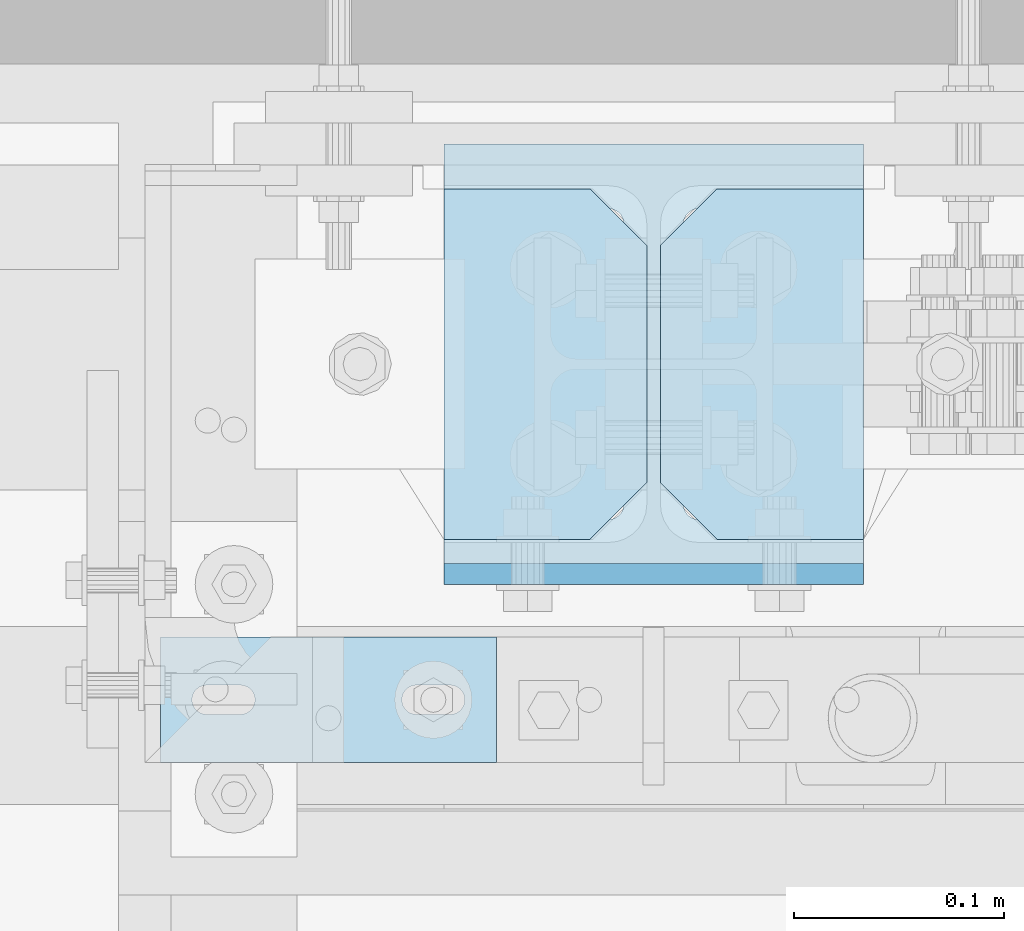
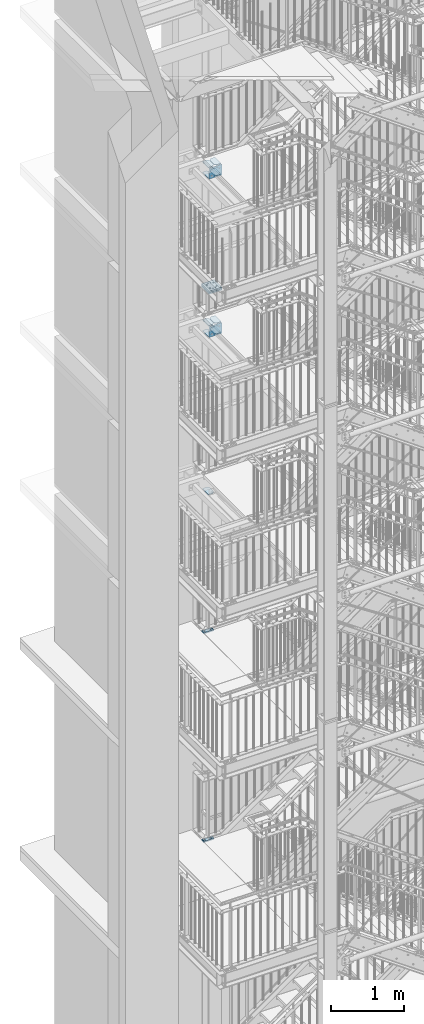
# One storey, part 192 of 831: 15 plates, 54 openings.
"""IFC2X3 building model written with IfcOpenShell, lengths in millimetres."""

from ifc_helpers import new_model, entity, si_unit, converted_unit, point, frame, frame_2d, origin, origin_with_axes, origin_2d_with_axis, place, context, project, spatial, polyline, circle_curve, line_curve, trimmed, segment, composite_curve, circle, outline, extrude, material, layer, layer_set, element, save


model = new_model("IFC2X3")

# Units and contexts
model_context = context("Model", 3, precision=1e-09, world=origin_with_axes())
ifc_project = project(units=[si_unit("LENGTHUNIT", "METRE", prefix="MILLI"), si_unit("AREAUNIT", "SQUARE_METRE"), si_unit("VOLUMEUNIT", "CUBIC_METRE"), converted_unit("PLANEANGLEUNIT", "DEGREE", entity("IfcPlaneAngleMeasure", 0.01745329), si_unit("PLANEANGLEUNIT", "RADIAN"), dimensions=[0, 0, 0, 0, 0, 0, 0])], contexts=[model_context])

# Site, building, storey
site_placement = place(None, origin_with_axes())
site = spatial("IfcSite", under=ifc_project, at=site_placement, Name="Site", CompositionType="ELEMENT")
building_placement = place(site_placement, origin_with_axes())
building = spatial("IfcBuilding", under=site, at=building_placement, Name="Struktur 1", CompositionType="ELEMENT")
storey_placement = place(building_placement, origin_with_axes())
storey = spatial("IfcBuildingStorey", under=building, at=storey_placement, Name="Default Storey", CompositionType="ELEMENT", Elevation=0.0)

# Plate, openings
ifc_material = material(Name="S235JR")
ifc_layer_1 = layer(ifc_material, 10.0)
ifc_layer_set_1 = layer_set([ifc_layer_1], Name="S235JR")
plate_1_placement = place(None, frame((4853.463402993, 7433.236971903, 9532.0), z_axis=(0.0, 0.0, -1.0), x_axis=(-1.0, 0.0, 0.0)))
plate_1 = element("IfcPlate", 1, at=plate_1_placement, inside=storey, material=ifc_layer_set_1, Name="Stiffener#4", ObjectType="Stiffener#4", context=model_context, shape_type="SweptSolid", body=[
    extrude(outline(polyline([(0.0, 0.0), (96.75, 0.0), (96.75, 167.0), (0.0, 167.0), (0.0, 0.0)])), origin_with_axes(), (0.0, 0.0, 1.0), 10.0),
])
opening_1_placement = place(plate_1_placement, frame((0.0, 0.0, -0.01), z_axis=(0.0, 0.0, 1.0), x_axis=(1.0, 0.0, 0.0)))
element("IfcOpeningElement", 2, at=opening_1_placement, cuts=plate_1, ObjectType="Opening", context=model_context, shape_type="SweptSolid", body=[
    extrude(outline(polyline([(0.0, 167.0), (0.0, 140.0), (27.0, 167.0), (0.0, 167.0)])), origin(), (0.0, 0.0, 1.0), 10.02),
])
opening_2_placement = place(plate_1_placement, frame((0.0, 0.0, -0.01), z_axis=(0.0, 0.0, 1.0), x_axis=(1.0, 0.0, 0.0)))
element("IfcOpeningElement", 3, at=opening_2_placement, cuts=plate_1, ObjectType="Opening", context=model_context, shape_type="SweptSolid", body=[
    extrude(outline(polyline([(0.0, 0.0), (27.0, 0.0), (0.0, 27.0), (0.0, 0.0)])), origin(), (0.0, 0.0, 1.0), 10.02),
])

plate_2_placement = place(None, frame((4856.713402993, 7411.736971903, 12244.0), z_axis=(0.0, 1.0, 0.0), x_axis=(0.0, 0.0, -1.0)))
plate_2 = element("IfcPlate", 4, at=plate_2_placement, inside=storey, material=ifc_layer_set_1, Name="Endplate", ObjectType="Endplate", context=model_context, shape_type="SweptSolid", body=[
    extrude(outline(polyline([(-90.0, -100.0), (90.0, -100.0), (90.0, 100.0), (-90.0, 100.0), (-90.0, -100.0)])), origin_with_axes(), (0.0, 0.0, 1.0), 10.0),
])
opening_3_placement = place(plate_2_placement, frame((-67.0, 21.25, 10.5), z_axis=(0.0, 0.0, -1.0), x_axis=(-1.0, 0.0, 0.0)))
element("IfcOpeningElement", 5, at=opening_3_placement, cuts=plate_2, ObjectType="Opening", context=model_context, shape_type="SweptSolid", body=[
    extrude(circle(Radius=6.001, at=origin_2d_with_axis()), origin(), (0.0, 0.0, 1.0), 11.0),
])
opening_4_placement = place(plate_2_placement, frame((67.0, 21.25, 10.5), z_axis=(0.0, 0.0, -1.0), x_axis=(-1.0, 0.0, 0.0)))
element("IfcOpeningElement", 6, at=opening_4_placement, cuts=plate_2, ObjectType="Opening", context=model_context, shape_type="SweptSolid", body=[
    extrude(circle(Radius=6.001, at=origin_2d_with_axis()), origin(), (0.0, 0.0, 1.0), 11.0),
])
opening_5_placement = place(plate_2_placement, frame((67.0, -21.25, 10.5), z_axis=(0.0, 0.0, -1.0), x_axis=(-1.0, 0.0, 0.0)))
element("IfcOpeningElement", 7, at=opening_5_placement, cuts=plate_2, ObjectType="Opening", context=model_context, shape_type="SweptSolid", body=[
    extrude(circle(Radius=6.001, at=origin_2d_with_axis()), origin(), (0.0, 0.0, 1.0), 11.0),
])
opening_6_placement = place(plate_2_placement, frame((-67.0, -21.25, 10.5), z_axis=(0.0, 0.0, -1.0), x_axis=(-1.0, 0.0, 0.0)))
element("IfcOpeningElement", 8, at=opening_6_placement, cuts=plate_2, ObjectType="Opening", context=model_context, shape_type="SweptSolid", body=[
    extrude(circle(Radius=6.001, at=origin_2d_with_axis()), origin(), (0.0, 0.0, 1.0), 11.0),
])
opening_7_placement = place(plate_2_placement, frame((-45.0, -60.0, 10.5), z_axis=(0.0, 0.0, -1.0), x_axis=(0.0, -1.0, 0.0)))
element("IfcOpeningElement", 9, at=opening_7_placement, cuts=plate_2, ObjectType="Opening", context=model_context, shape_type="SweptSolid", body=[
    extrude(circle(Radius=9.001, at=origin_2d_with_axis()), origin(), (0.0, 0.0, 1.0), 11.0),
])
opening_8_placement = place(plate_2_placement, frame((45.0, -60.0, 10.5), z_axis=(0.0, 0.0, -1.0), x_axis=(0.0, -1.0, 0.0)))
element("IfcOpeningElement", 10, at=opening_8_placement, cuts=plate_2, ObjectType="Opening", context=model_context, shape_type="SweptSolid", body=[
    extrude(circle(Radius=9.001, at=origin_2d_with_axis()), origin(), (0.0, 0.0, 1.0), 11.0),
])
opening_9_placement = place(plate_2_placement, frame((45.0, 60.0, 10.5), z_axis=(0.0, 0.0, -1.0), x_axis=(0.0, 1.0, 0.0)))
element("IfcOpeningElement", 11, at=opening_9_placement, cuts=plate_2, ObjectType="Opening", context=model_context, shape_type="SweptSolid", body=[
    extrude(circle(Radius=9.001, at=origin_2d_with_axis()), origin(), (0.0, 0.0, 1.0), 11.0),
])
opening_10_placement = place(plate_2_placement, frame((-45.0, 60.0, 10.5), z_axis=(0.0, 0.0, -1.0), x_axis=(0.0, 1.0, 0.0)))
element("IfcOpeningElement", 12, at=opening_10_placement, cuts=plate_2, ObjectType="Opening", context=model_context, shape_type="SweptSolid", body=[
    extrude(circle(Radius=9.001, at=origin_2d_with_axis()), origin(), (0.0, 0.0, 1.0), 11.0),
])

plate_3_placement = place(None, frame((4859.963402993, 7433.236971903, 12329.0), z_axis=(0.0, 0.0, 1.0), x_axis=(1.0, 0.0, 0.0)))
plate_3 = element("IfcPlate", 13, at=plate_3_placement, inside=storey, material=ifc_layer_set_1, Name="Stiffener#1", ObjectType="Stiffener#1", context=model_context, shape_type="SweptSolid", body=[
    extrude(outline(polyline([(0.0, 0.0), (96.75, 0.0), (96.75, 167.0), (0.0, 167.0), (0.0, 0.0)])), origin_with_axes(), (0.0, 0.0, 1.0), 10.0),
])
opening_11_placement = place(plate_3_placement, frame((0.0, 0.0, -0.01), z_axis=(0.0, 0.0, 1.0), x_axis=(1.0, 0.0, 0.0)))
element("IfcOpeningElement", 14, at=opening_11_placement, cuts=plate_3, ObjectType="Opening", context=model_context, shape_type="SweptSolid", body=[
    extrude(outline(polyline([(0.0, 167.0), (0.0, 140.0), (27.0, 167.0), (0.0, 167.0)])), origin(), (0.0, 0.0, 1.0), 10.02),
])
opening_12_placement = place(plate_3_placement, frame((0.0, 0.0, -0.01), z_axis=(0.0, 0.0, 1.0), x_axis=(1.0, 0.0, 0.0)))
element("IfcOpeningElement", 15, at=opening_12_placement, cuts=plate_3, ObjectType="Opening", context=model_context, shape_type="SweptSolid", body=[
    extrude(outline(polyline([(0.0, 0.0), (27.0, 0.0), (0.0, 27.0), (0.0, 0.0)])), origin(), (0.0, 0.0, 1.0), 10.02),
])

plate_4_placement = place(None, frame((4756.713402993, 7433.236971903, 12329.0), z_axis=(0.0, 0.0, 1.0), x_axis=(1.0, 0.0, 0.0)))
plate_4 = element("IfcPlate", 16, at=plate_4_placement, inside=storey, material=ifc_layer_set_1, Name="Stiffener#2", ObjectType="Stiffener#2", context=model_context, shape_type="SweptSolid", body=[
    extrude(outline(polyline([(0.0, 0.0), (96.75, 0.0), (96.75, 167.0), (0.0, 167.0), (0.0, 0.0)])), origin_with_axes(), (0.0, 0.0, 1.0), 10.0),
])
opening_13_placement = place(plate_4_placement, frame((0.0, 0.0, -0.01), z_axis=(0.0, 0.0, 1.0), x_axis=(1.0, 0.0, 0.0)))
element("IfcOpeningElement", 17, at=opening_13_placement, cuts=plate_4, ObjectType="Opening", context=model_context, shape_type="SweptSolid", body=[
    extrude(outline(polyline([(96.75, 167.0), (69.75, 167.0), (96.75, 140.0), (96.75, 167.0)])), origin(), (0.0, 0.0, 1.0), 10.02),
])
opening_14_placement = place(plate_4_placement, frame((0.0, 0.0, -0.01), z_axis=(0.0, 0.0, 1.0), x_axis=(1.0, 0.0, 0.0)))
element("IfcOpeningElement", 18, at=opening_14_placement, cuts=plate_4, ObjectType="Opening", context=model_context, shape_type="SweptSolid", body=[
    extrude(outline(polyline([(96.75, 0.0), (96.75, 27.0), (69.75, 0.0), (96.75, 0.0)])), origin(), (0.0, 0.0, 1.0), 10.02),
])

plate_5_placement = place(None, frame((4956.713402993, 7433.236971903, 12159.0), z_axis=(0.0, 0.0, -1.0), x_axis=(-1.0, 0.0, 0.0)))
plate_5 = element("IfcPlate", 19, at=plate_5_placement, inside=storey, material=ifc_layer_set_1, Name="Stiffener#3", ObjectType="Stiffener#3", context=model_context, shape_type="SweptSolid", body=[
    extrude(outline(polyline([(0.0, 0.0), (96.75, 0.0), (96.75, 167.0), (0.0, 167.0), (0.0, 0.0)])), origin_with_axes(), (0.0, 0.0, 1.0), 10.0),
])
opening_15_placement = place(plate_5_placement, frame((0.0, 0.0, -0.01), z_axis=(0.0, 0.0, 1.0), x_axis=(1.0, 0.0, 0.0)))
element("IfcOpeningElement", 20, at=opening_15_placement, cuts=plate_5, ObjectType="Opening", context=model_context, shape_type="SweptSolid", body=[
    extrude(outline(polyline([(96.75, 167.0), (69.75, 167.0), (96.75, 140.0), (96.75, 167.0)])), origin(), (0.0, 0.0, 1.0), 10.02),
])
opening_16_placement = place(plate_5_placement, frame((0.0, 0.0, -0.01), z_axis=(0.0, 0.0, 1.0), x_axis=(1.0, 0.0, 0.0)))
element("IfcOpeningElement", 21, at=opening_16_placement, cuts=plate_5, ObjectType="Opening", context=model_context, shape_type="SweptSolid", body=[
    extrude(outline(polyline([(96.75, 0.0), (96.75, 27.0), (69.75, 0.0), (96.75, 0.0)])), origin(), (0.0, 0.0, 1.0), 10.02),
])

plate_6_placement = place(None, frame((4853.463402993, 7433.236971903, 12159.0), z_axis=(0.0, 0.0, -1.0), x_axis=(-1.0, 0.0, 0.0)))
plate_6 = element("IfcPlate", 22, at=plate_6_placement, inside=storey, material=ifc_layer_set_1, Name="Stiffener#4", ObjectType="Stiffener#4", context=model_context, shape_type="SweptSolid", body=[
    extrude(outline(polyline([(0.0, 0.0), (96.75, 0.0), (96.75, 167.0), (0.0, 167.0), (0.0, 0.0)])), origin_with_axes(), (0.0, 0.0, 1.0), 10.0),
])
opening_17_placement = place(plate_6_placement, frame((0.0, 0.0, -0.01), z_axis=(0.0, 0.0, 1.0), x_axis=(1.0, 0.0, 0.0)))
element("IfcOpeningElement", 23, at=opening_17_placement, cuts=plate_6, ObjectType="Opening", context=model_context, shape_type="SweptSolid", body=[
    extrude(outline(polyline([(0.0, 167.0), (0.0, 140.0), (27.0, 167.0), (0.0, 167.0)])), origin(), (0.0, 0.0, 1.0), 10.02),
])
opening_18_placement = place(plate_6_placement, frame((0.0, 0.0, -0.01), z_axis=(0.0, 0.0, 1.0), x_axis=(1.0, 0.0, 0.0)))
element("IfcOpeningElement", 24, at=opening_18_placement, cuts=plate_6, ObjectType="Opening", context=model_context, shape_type="SweptSolid", body=[
    extrude(outline(polyline([(0.0, 0.0), (27.0, 0.0), (0.0, 27.0), (0.0, 0.0)])), origin(), (0.0, 0.0, 1.0), 10.02),
])

plate_7_placement = place(None, frame((4856.713402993, 7411.736971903, 14879.0), z_axis=(0.0, 1.0, 0.0), x_axis=(0.0, 0.0, -1.0)))
plate_7 = element("IfcPlate", 25, at=plate_7_placement, inside=storey, material=ifc_layer_set_1, Name="Endplate", ObjectType="Endplate", context=model_context, shape_type="SweptSolid", body=[
    extrude(outline(polyline([(-90.0, -100.0), (90.0, -100.0), (90.0, 100.0), (-90.0, 100.0), (-90.0, -100.0)])), origin_with_axes(), (0.0, 0.0, 1.0), 10.0),
])
opening_19_placement = place(plate_7_placement, frame((-67.0, 21.25, 10.5), z_axis=(0.0, 0.0, -1.0), x_axis=(-1.0, 0.0, 0.0)))
element("IfcOpeningElement", 26, at=opening_19_placement, cuts=plate_7, ObjectType="Opening", context=model_context, shape_type="SweptSolid", body=[
    extrude(circle(Radius=6.001, at=origin_2d_with_axis()), origin(), (0.0, 0.0, 1.0), 11.0),
])
opening_20_placement = place(plate_7_placement, frame((67.0, 21.25, 10.5), z_axis=(0.0, 0.0, -1.0), x_axis=(-1.0, 0.0, 0.0)))
element("IfcOpeningElement", 27, at=opening_20_placement, cuts=plate_7, ObjectType="Opening", context=model_context, shape_type="SweptSolid", body=[
    extrude(circle(Radius=6.001, at=origin_2d_with_axis()), origin(), (0.0, 0.0, 1.0), 11.0),
])
opening_21_placement = place(plate_7_placement, frame((67.0, -21.25, 10.5), z_axis=(0.0, 0.0, -1.0), x_axis=(-1.0, 0.0, 0.0)))
element("IfcOpeningElement", 28, at=opening_21_placement, cuts=plate_7, ObjectType="Opening", context=model_context, shape_type="SweptSolid", body=[
    extrude(circle(Radius=6.001, at=origin_2d_with_axis()), origin(), (0.0, 0.0, 1.0), 11.0),
])
opening_22_placement = place(plate_7_placement, frame((-67.0, -21.25, 10.5), z_axis=(0.0, 0.0, -1.0), x_axis=(-1.0, 0.0, 0.0)))
element("IfcOpeningElement", 29, at=opening_22_placement, cuts=plate_7, ObjectType="Opening", context=model_context, shape_type="SweptSolid", body=[
    extrude(circle(Radius=6.001, at=origin_2d_with_axis()), origin(), (0.0, 0.0, 1.0), 11.0),
])
opening_23_placement = place(plate_7_placement, frame((-45.0, 60.0, 10.5), z_axis=(0.0, 0.0, -1.0), x_axis=(0.0, 1.0, 0.0)))
element("IfcOpeningElement", 30, at=opening_23_placement, cuts=plate_7, ObjectType="Opening", context=model_context, shape_type="SweptSolid", body=[
    extrude(circle(Radius=9.001, at=origin_2d_with_axis()), origin(), (0.0, 0.0, 1.0), 11.0),
])
opening_24_placement = place(plate_7_placement, frame((45.0, 60.0, 10.5), z_axis=(0.0, 0.0, -1.0), x_axis=(0.0, 1.0, 0.0)))
element("IfcOpeningElement", 31, at=opening_24_placement, cuts=plate_7, ObjectType="Opening", context=model_context, shape_type="SweptSolid", body=[
    extrude(circle(Radius=9.001, at=origin_2d_with_axis()), origin(), (0.0, 0.0, 1.0), 11.0),
])
opening_25_placement = place(plate_7_placement, frame((45.0, -60.0, 10.5), z_axis=(0.0, 0.0, -1.0), x_axis=(0.0, -1.0, 0.0)))
element("IfcOpeningElement", 32, at=opening_25_placement, cuts=plate_7, ObjectType="Opening", context=model_context, shape_type="SweptSolid", body=[
    extrude(circle(Radius=9.001, at=origin_2d_with_axis()), origin(), (0.0, 0.0, 1.0), 11.0),
])
opening_26_placement = place(plate_7_placement, frame((-45.0, -60.0, 10.5), z_axis=(0.0, 0.0, -1.0), x_axis=(0.0, -1.0, 0.0)))
element("IfcOpeningElement", 33, at=opening_26_placement, cuts=plate_7, ObjectType="Opening", context=model_context, shape_type="SweptSolid", body=[
    extrude(circle(Radius=9.001, at=origin_2d_with_axis()), origin(), (0.0, 0.0, 1.0), 11.0),
])

plate_8_placement = place(None, frame((4859.963402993, 7433.236971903, 14964.0), z_axis=(0.0, 0.0, 1.0), x_axis=(1.0, 0.0, 0.0)))
plate_8 = element("IfcPlate", 34, at=plate_8_placement, inside=storey, material=ifc_layer_set_1, Name="Stiffener#1", ObjectType="Stiffener#1", context=model_context, shape_type="SweptSolid", body=[
    extrude(outline(polyline([(0.0, 0.0), (96.75, 0.0), (96.75, 167.0), (0.0, 167.0), (0.0, 0.0)])), origin_with_axes(), (0.0, 0.0, 1.0), 10.0),
])
opening_27_placement = place(plate_8_placement, frame((0.0, 0.0, -0.01), z_axis=(0.0, 0.0, 1.0), x_axis=(1.0, 0.0, 0.0)))
element("IfcOpeningElement", 35, at=opening_27_placement, cuts=plate_8, ObjectType="Opening", context=model_context, shape_type="SweptSolid", body=[
    extrude(outline(polyline([(0.0, 167.0), (0.0, 140.0), (27.0, 167.0), (0.0, 167.0)])), origin(), (0.0, 0.0, 1.0), 10.02),
])
opening_28_placement = place(plate_8_placement, frame((0.0, 0.0, -0.01), z_axis=(0.0, 0.0, 1.0), x_axis=(1.0, 0.0, 0.0)))
element("IfcOpeningElement", 36, at=opening_28_placement, cuts=plate_8, ObjectType="Opening", context=model_context, shape_type="SweptSolid", body=[
    extrude(outline(polyline([(0.0, 0.0), (27.0, 0.0), (0.0, 27.0), (0.0, 0.0)])), origin(), (0.0, 0.0, 1.0), 10.02),
])

plate_9_placement = place(None, frame((4756.713402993, 7433.236971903, 14964.0), z_axis=(0.0, 0.0, 1.0), x_axis=(1.0, 0.0, 0.0)))
plate_9 = element("IfcPlate", 37, at=plate_9_placement, inside=storey, material=ifc_layer_set_1, Name="Stiffener#2", ObjectType="Stiffener#2", context=model_context, shape_type="SweptSolid", body=[
    extrude(outline(polyline([(0.0, 0.0), (96.75, 0.0), (96.75, 167.0), (0.0, 167.0), (0.0, 0.0)])), origin_with_axes(), (0.0, 0.0, 1.0), 10.0),
])
opening_29_placement = place(plate_9_placement, frame((0.0, 0.0, -0.01), z_axis=(0.0, 0.0, 1.0), x_axis=(1.0, 0.0, 0.0)))
element("IfcOpeningElement", 38, at=opening_29_placement, cuts=plate_9, ObjectType="Opening", context=model_context, shape_type="SweptSolid", body=[
    extrude(outline(polyline([(96.75, 167.0), (69.75, 167.0), (96.75, 140.0), (96.75, 167.0)])), origin(), (0.0, 0.0, 1.0), 10.02),
])
opening_30_placement = place(plate_9_placement, frame((0.0, 0.0, -0.01), z_axis=(0.0, 0.0, 1.0), x_axis=(1.0, 0.0, 0.0)))
element("IfcOpeningElement", 39, at=opening_30_placement, cuts=plate_9, ObjectType="Opening", context=model_context, shape_type="SweptSolid", body=[
    extrude(outline(polyline([(96.75, 0.0), (96.75, 27.0), (69.75, 0.0), (96.75, 0.0)])), origin(), (0.0, 0.0, 1.0), 10.02),
])

plate_10_placement = place(None, frame((4956.713402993, 7433.236971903, 14794.0), z_axis=(0.0, 0.0, -1.0), x_axis=(-1.0, 0.0, 0.0)))
plate_10 = element("IfcPlate", 40, at=plate_10_placement, inside=storey, material=ifc_layer_set_1, Name="Stiffener#3", ObjectType="Stiffener#3", context=model_context, shape_type="SweptSolid", body=[
    extrude(outline(polyline([(0.0, 0.0), (96.75, 0.0), (96.75, 167.0), (0.0, 167.0), (0.0, 0.0)])), origin_with_axes(), (0.0, 0.0, 1.0), 10.0),
])
opening_31_placement = place(plate_10_placement, frame((0.0, 0.0, -0.01), z_axis=(0.0, 0.0, 1.0), x_axis=(1.0, 0.0, 0.0)))
element("IfcOpeningElement", 41, at=opening_31_placement, cuts=plate_10, ObjectType="Opening", context=model_context, shape_type="SweptSolid", body=[
    extrude(outline(polyline([(96.75, 167.0), (69.75, 167.0), (96.75, 140.0), (96.75, 167.0)])), origin(), (0.0, 0.0, 1.0), 10.02),
])
opening_32_placement = place(plate_10_placement, frame((0.0, 0.0, -0.01), z_axis=(0.0, 0.0, 1.0), x_axis=(1.0, 0.0, 0.0)))
element("IfcOpeningElement", 42, at=opening_32_placement, cuts=plate_10, ObjectType="Opening", context=model_context, shape_type="SweptSolid", body=[
    extrude(outline(polyline([(96.75, 0.0), (96.75, 27.0), (69.75, 0.0), (96.75, 0.0)])), origin(), (0.0, 0.0, 1.0), 10.02),
])

plate_11_placement = place(None, frame((4853.463402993, 7433.236971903, 14794.0), z_axis=(0.0, 0.0, -1.0), x_axis=(-1.0, 0.0, 0.0)))
plate_11 = element("IfcPlate", 43, at=plate_11_placement, inside=storey, material=ifc_layer_set_1, Name="Stiffener#4", ObjectType="Stiffener#4", context=model_context, shape_type="SweptSolid", body=[
    extrude(outline(polyline([(0.0, 0.0), (96.75, 0.0), (96.75, 167.0), (0.0, 167.0), (0.0, 0.0)])), origin_with_axes(), (0.0, 0.0, 1.0), 10.0),
])
opening_33_placement = place(plate_11_placement, frame((0.0, 0.0, -0.01), z_axis=(0.0, 0.0, 1.0), x_axis=(1.0, 0.0, 0.0)))
element("IfcOpeningElement", 44, at=opening_33_placement, cuts=plate_11, ObjectType="Opening", context=model_context, shape_type="SweptSolid", body=[
    extrude(outline(polyline([(0.0, 167.0), (0.0, 140.0), (27.0, 167.0), (0.0, 167.0)])), origin(), (0.0, 0.0, 1.0), 10.02),
])
opening_34_placement = place(plate_11_placement, frame((0.0, 0.0, -0.01), z_axis=(0.0, 0.0, 1.0), x_axis=(1.0, 0.0, 0.0)))
element("IfcOpeningElement", 45, at=opening_34_placement, cuts=plate_11, ObjectType="Opening", context=model_context, shape_type="SweptSolid", body=[
    extrude(outline(polyline([(0.0, 0.0), (27.0, 0.0), (0.0, 27.0), (0.0, 0.0)])), origin(), (0.0, 0.0, 1.0), 10.02),
])

ifc_layer_2 = layer(ifc_material, 25.0)
ifc_layer_set_2 = layer_set([ifc_layer_2], Name="S235JR")
plate_12_placement = place(None, frame((4856.713402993, 7516.736971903, 12900.0), z_axis=(0.0, 0.0, -1.0), x_axis=(0.0, 1.0, 0.0)))
plate_12 = element("IfcPlate", 46, at=plate_12_placement, inside=storey, material=ifc_layer_set_2, Name="Endplate#1", ObjectType="Endplate#1", context=model_context, shape_type="SweptSolid", body=[
    extrude(outline(polyline([(-105.0, -100.0), (105.0, -100.0), (105.0, 100.0), (-105.0, 100.0), (-105.0, -100.0)])), origin_with_axes(), (0.0, 0.0, 1.0), 25.0),
])
opening_35_placement = place(plate_12_placement, frame((67.0, 21.25, -0.5), z_axis=(0.0, 0.0, 1.0), x_axis=(1.0, 0.0, 0.0)))
element("IfcOpeningElement", 47, at=opening_35_placement, cuts=plate_12, ObjectType="Opening", context=model_context, shape_type="SweptSolid", body=[
    extrude(circle(Radius=7.001, at=origin_2d_with_axis()), origin(), (0.0, 0.0, 1.0), 26.0),
])
opening_36_placement = place(plate_12_placement, frame((-67.0, 21.25, -0.5), z_axis=(0.0, 0.0, 1.0), x_axis=(1.0, 0.0, 0.0)))
element("IfcOpeningElement", 48, at=opening_36_placement, cuts=plate_12, ObjectType="Opening", context=model_context, shape_type="SweptSolid", body=[
    extrude(circle(Radius=7.001, at=origin_2d_with_axis()), origin(), (0.0, 0.0, 1.0), 26.0),
])
opening_37_placement = place(plate_12_placement, frame((-67.0, -21.25, -0.5), z_axis=(0.0, 0.0, 1.0), x_axis=(1.0, 0.0, 0.0)))
element("IfcOpeningElement", 49, at=opening_37_placement, cuts=plate_12, ObjectType="Opening", context=model_context, shape_type="SweptSolid", body=[
    extrude(circle(Radius=7.001, at=origin_2d_with_axis()), origin(), (0.0, 0.0, 1.0), 26.0),
])
opening_38_placement = place(plate_12_placement, frame((67.0, -21.25, -0.5), z_axis=(0.0, 0.0, 1.0), x_axis=(1.0, 0.0, 0.0)))
element("IfcOpeningElement", 50, at=opening_38_placement, cuts=plate_12, ObjectType="Opening", context=model_context, shape_type="SweptSolid", body=[
    extrude(circle(Radius=7.001, at=origin_2d_with_axis()), origin(), (0.0, 0.0, 1.0), 26.0),
])
opening_39_placement = place(plate_12_placement, frame((45.0, 61.001, 25.5), z_axis=(0.0, 0.0, 1.0), x_axis=(1.0, 0.0, 0.0)))
element("IfcOpeningElement", 51, at=opening_39_placement, cuts=plate_12, ObjectType="Opening", context=model_context, shape_type="SweptSolid", body=[
    extrude(circle(Radius=11.001, at=frame_2d((0.0, -11.001), x_axis=(1.0, 0.0))), origin(), (0.0, 0.0, -1.0), 26.0),
])
opening_40_placement = place(plate_12_placement, frame((-45.0, 61.001, 25.5), z_axis=(0.0, 0.0, 1.0), x_axis=(1.0, 0.0, 0.0)))
element("IfcOpeningElement", 52, at=opening_40_placement, cuts=plate_12, ObjectType="Opening", context=model_context, shape_type="SweptSolid", body=[
    extrude(circle(Radius=11.001, at=frame_2d((0.0, -11.001), x_axis=(1.0, 0.0))), origin(), (0.0, 0.0, -1.0), 26.0),
])
opening_41_placement = place(plate_12_placement, frame((45.0, -38.999, 25.5), z_axis=(0.0, 0.0, 1.0), x_axis=(1.0, 0.0, 0.0)))
element("IfcOpeningElement", 53, at=opening_41_placement, cuts=plate_12, ObjectType="Opening", context=model_context, shape_type="SweptSolid", body=[
    extrude(circle(Radius=11.001, at=frame_2d((0.0, -11.001), x_axis=(1.0, 0.0))), origin(), (0.0, 0.0, -1.0), 26.0),
])
opening_42_placement = place(plate_12_placement, frame((-45.0, -38.999, 25.5), z_axis=(0.0, 0.0, 1.0), x_axis=(1.0, 0.0, 0.0)))
element("IfcOpeningElement", 54, at=opening_42_placement, cuts=plate_12, ObjectType="Opening", context=model_context, shape_type="SweptSolid", body=[
    extrude(circle(Radius=11.001, at=frame_2d((0.0, -11.001), x_axis=(1.0, 0.0))), origin(), (0.0, 0.0, -1.0), 26.0),
])

plate_13_placement = place(None, frame((4856.713402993, 7516.736971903, 12925.0), z_axis=(0.0, 0.0, -1.0), x_axis=(0.0, 1.0, 0.0)))
plate_13 = element("IfcPlate", 55, at=plate_13_placement, inside=storey, material=ifc_layer_set_2, Name="Endplate#2", ObjectType="Endplate#2", context=model_context, shape_type="SweptSolid", body=[
    extrude(outline(polyline([(-105.0, -100.0), (105.0, -100.0), (105.0, 100.0), (-105.0, 100.0), (-105.0, -100.0)])), origin_with_axes(), (0.0, 0.0, 1.0), 25.0),
])
opening_43_placement = place(plate_13_placement, frame((67.0, 21.25, 25.5), z_axis=(0.0, 0.0, -1.0), x_axis=(-1.0, 0.0, 0.0)))
element("IfcOpeningElement", 56, at=opening_43_placement, cuts=plate_13, ObjectType="Opening", context=model_context, shape_type="SweptSolid", body=[
    extrude(circle(Radius=7.001, at=origin_2d_with_axis()), origin(), (0.0, 0.0, 1.0), 26.0),
])
opening_44_placement = place(plate_13_placement, frame((-67.0, 21.25, 25.5), z_axis=(0.0, 0.0, -1.0), x_axis=(-1.0, 0.0, 0.0)))
element("IfcOpeningElement", 57, at=opening_44_placement, cuts=plate_13, ObjectType="Opening", context=model_context, shape_type="SweptSolid", body=[
    extrude(circle(Radius=7.001, at=origin_2d_with_axis()), origin(), (0.0, 0.0, 1.0), 26.0),
])
opening_45_placement = place(plate_13_placement, frame((-67.0, -21.25, 25.5), z_axis=(0.0, 0.0, -1.0), x_axis=(-1.0, 0.0, 0.0)))
element("IfcOpeningElement", 58, at=opening_45_placement, cuts=plate_13, ObjectType="Opening", context=model_context, shape_type="SweptSolid", body=[
    extrude(circle(Radius=7.001, at=origin_2d_with_axis()), origin(), (0.0, 0.0, 1.0), 26.0),
])
opening_46_placement = place(plate_13_placement, frame((67.0, -21.25, 25.5), z_axis=(0.0, 0.0, -1.0), x_axis=(-1.0, 0.0, 0.0)))
element("IfcOpeningElement", 59, at=opening_46_placement, cuts=plate_13, ObjectType="Opening", context=model_context, shape_type="SweptSolid", body=[
    extrude(circle(Radius=7.001, at=origin_2d_with_axis()), origin(), (0.0, 0.0, 1.0), 26.0),
])
opening_47_placement = place(plate_13_placement, frame((45.0, 61.001, 25.5), z_axis=(0.0, 0.0, 1.0), x_axis=(1.0, 0.0, 0.0)))
element("IfcOpeningElement", 60, at=opening_47_placement, cuts=plate_13, ObjectType="Opening", context=model_context, shape_type="SweptSolid", body=[
    extrude(circle(Radius=11.001, at=frame_2d((0.0, -11.001), x_axis=(1.0, 0.0))), origin(), (0.0, 0.0, -1.0), 26.0),
])
opening_48_placement = place(plate_13_placement, frame((-45.0, 61.001, 25.5), z_axis=(0.0, 0.0, 1.0), x_axis=(1.0, 0.0, 0.0)))
element("IfcOpeningElement", 61, at=opening_48_placement, cuts=plate_13, ObjectType="Opening", context=model_context, shape_type="SweptSolid", body=[
    extrude(circle(Radius=11.001, at=frame_2d((0.0, -11.001), x_axis=(1.0, 0.0))), origin(), (0.0, 0.0, -1.0), 26.0),
])
opening_49_placement = place(plate_13_placement, frame((45.0, -38.999, 25.5), z_axis=(0.0, 0.0, 1.0), x_axis=(1.0, 0.0, 0.0)))
element("IfcOpeningElement", 62, at=opening_49_placement, cuts=plate_13, ObjectType="Opening", context=model_context, shape_type="SweptSolid", body=[
    extrude(circle(Radius=11.001, at=frame_2d((0.0, -11.001), x_axis=(1.0, 0.0))), origin(), (0.0, 0.0, -1.0), 26.0),
])
opening_50_placement = place(plate_13_placement, frame((-45.0, -38.999, 25.5), z_axis=(0.0, 0.0, 1.0), x_axis=(1.0, 0.0, 0.0)))
element("IfcOpeningElement", 63, at=opening_50_placement, cuts=plate_13, ObjectType="Opening", context=model_context, shape_type="SweptSolid", body=[
    extrude(circle(Radius=11.001, at=frame_2d((0.0, -11.001), x_axis=(1.0, 0.0))), origin(), (0.0, 0.0, -1.0), 26.0),
])

ifc_layer_3 = layer(ifc_material, 20.0)
ifc_layer_set_3 = layer_set([ifc_layer_3], Name="S235JR")
plate_14_placement = place(None, frame((4781.713402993, 7386.736971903, 3847.0), z_axis=(0.0, 0.0, 1.0), x_axis=(-1.0, 0.0, 0.0)))
plate_14 = element("IfcPlate", 64, at=plate_14_placement, inside=storey, material=ifc_layer_set_3, Name="Plate#500", ObjectType="Plate#500", context=model_context, shape_type="SweptSolid", body=[
    extrude(outline(polyline([(0.0, 0.0), (160.0, 0.0), (160.0, 60.0), (0.0, 60.0), (0.0, 0.0)])), origin_with_axes(), (0.0, 0.0, 1.0), 20.0),
])
opening_51_placement = place(plate_14_placement, frame((38.0, 37.001, 20.5), z_axis=(0.0, 0.0, 1.0), x_axis=(-1.0, 0.0, 0.0)))
element("IfcOpeningElement", 65, at=opening_51_placement, cuts=plate_14, ObjectType="Opening", context=model_context, shape_type="SweptSolid", body=[
    extrude(outline(composite_curve([segment(trimmed(line_curve((0.0, 0.0), (1.0, 0.0), 16.0), [point((0.0, 0.0))], [point((16.0, 0.0))], True, "CARTESIAN"), True, "CONTINUOUS"), segment(trimmed(circle_curve(frame_2d((16.0, 7.001), x_axis=(1.0, 0.0)), 7.001), [point((16.0, 0.0))], [point((16.0, 14.002))], True, "CARTESIAN"), True, "CONTINUOUS"), segment(trimmed(line_curve((16.0, 14.002), (-1.0, 0.0), 16.0), [point((16.0, 14.002))], [point((0.0, 14.002))], True, "CARTESIAN"), True, "CONTINUOUS"), segment(trimmed(circle_curve(frame_2d((0.0, 7.001), x_axis=(1.0, 0.0)), 7.001), [point((0.0, 14.002))], [point((0.0, 0.0))], True, "CARTESIAN"), True, "CONTINUOUS")], self_intersect=False)), origin(), (0.0, 0.0, -1.0), 21.0),
])
opening_52_placement = place(plate_14_placement, frame((138.0, 37.001, 20.5), z_axis=(0.0, 0.0, 1.0), x_axis=(-1.0, 0.0, 0.0)))
element("IfcOpeningElement", 66, at=opening_52_placement, cuts=plate_14, ObjectType="Opening", context=model_context, shape_type="SweptSolid", body=[
    extrude(outline(composite_curve([segment(trimmed(line_curve((0.0, 0.0), (1.0, 0.0), 16.0), [point((0.0, 0.0))], [point((16.0, 0.0))], True, "CARTESIAN"), True, "CONTINUOUS"), segment(trimmed(circle_curve(frame_2d((16.0, 7.001), x_axis=(1.0, 0.0)), 7.001), [point((16.0, 0.0))], [point((16.0, 14.002))], True, "CARTESIAN"), True, "CONTINUOUS"), segment(trimmed(line_curve((16.0, 14.002), (-1.0, 0.0), 16.0), [point((16.0, 14.002))], [point((0.0, 14.002))], True, "CARTESIAN"), True, "CONTINUOUS"), segment(trimmed(circle_curve(frame_2d((0.0, 7.001), x_axis=(1.0, 0.0)), 7.001), [point((0.0, 14.002))], [point((0.0, 0.0))], True, "CARTESIAN"), True, "CONTINUOUS")], self_intersect=False)), origin(), (0.0, 0.0, -1.0), 21.0),
])

plate_15_placement = place(None, frame((4781.713402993, 7386.736971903, 7320.0), z_axis=(0.0, 0.0, 1.0), x_axis=(-1.0, 0.0, 0.0)))
plate_15 = element("IfcPlate", 67, at=plate_15_placement, inside=storey, material=ifc_layer_set_3, Name="Plate#500", ObjectType="Plate#500", context=model_context, shape_type="SweptSolid", body=[
    extrude(outline(polyline([(0.0, 0.0), (160.0, 0.0), (160.0, 60.0), (0.0, 60.0), (0.0, 0.0)])), origin_with_axes(), (0.0, 0.0, 1.0), 20.0),
])
opening_53_placement = place(plate_15_placement, frame((38.0, 37.001, 20.5), z_axis=(0.0, 0.0, 1.0), x_axis=(-1.0, 0.0, 0.0)))
element("IfcOpeningElement", 68, at=opening_53_placement, cuts=plate_15, ObjectType="Opening", context=model_context, shape_type="SweptSolid", body=[
    extrude(outline(composite_curve([segment(trimmed(line_curve((0.0, 0.0), (1.0, 0.0), 16.0), [point((0.0, 0.0))], [point((16.0, 0.0))], True, "CARTESIAN"), True, "CONTINUOUS"), segment(trimmed(circle_curve(frame_2d((16.0, 7.001), x_axis=(1.0, 0.0)), 7.001), [point((16.0, 0.0))], [point((16.0, 14.002))], True, "CARTESIAN"), True, "CONTINUOUS"), segment(trimmed(line_curve((16.0, 14.002), (-1.0, 0.0), 16.0), [point((16.0, 14.002))], [point((0.0, 14.002))], True, "CARTESIAN"), True, "CONTINUOUS"), segment(trimmed(circle_curve(frame_2d((0.0, 7.001), x_axis=(1.0, 0.0)), 7.001), [point((0.0, 14.002))], [point((0.0, 0.0))], True, "CARTESIAN"), True, "CONTINUOUS")], self_intersect=False)), origin(), (0.0, 0.0, -1.0), 21.0),
])
opening_54_placement = place(plate_15_placement, frame((138.0, 37.001, 20.5), z_axis=(0.0, 0.0, 1.0), x_axis=(-1.0, 0.0, 0.0)))
element("IfcOpeningElement", 69, at=opening_54_placement, cuts=plate_15, ObjectType="Opening", context=model_context, shape_type="SweptSolid", body=[
    extrude(outline(composite_curve([segment(trimmed(line_curve((0.0, 0.0), (1.0, 0.0), 16.0), [point((0.0, 0.0))], [point((16.0, 0.0))], True, "CARTESIAN"), True, "CONTINUOUS"), segment(trimmed(circle_curve(frame_2d((16.0, 7.001), x_axis=(1.0, 0.0)), 7.001), [point((16.0, 0.0))], [point((16.0, 14.002))], True, "CARTESIAN"), True, "CONTINUOUS"), segment(trimmed(line_curve((16.0, 14.002), (-1.0, 0.0), 16.0), [point((16.0, 14.002))], [point((0.0, 14.002))], True, "CARTESIAN"), True, "CONTINUOUS"), segment(trimmed(circle_curve(frame_2d((0.0, 7.001), x_axis=(1.0, 0.0)), 7.001), [point((0.0, 14.002))], [point((0.0, 0.0))], True, "CARTESIAN"), True, "CONTINUOUS")], self_intersect=False)), origin(), (0.0, 0.0, -1.0), 21.0),
])

save(model, "model.ifc")
